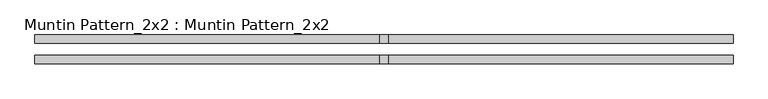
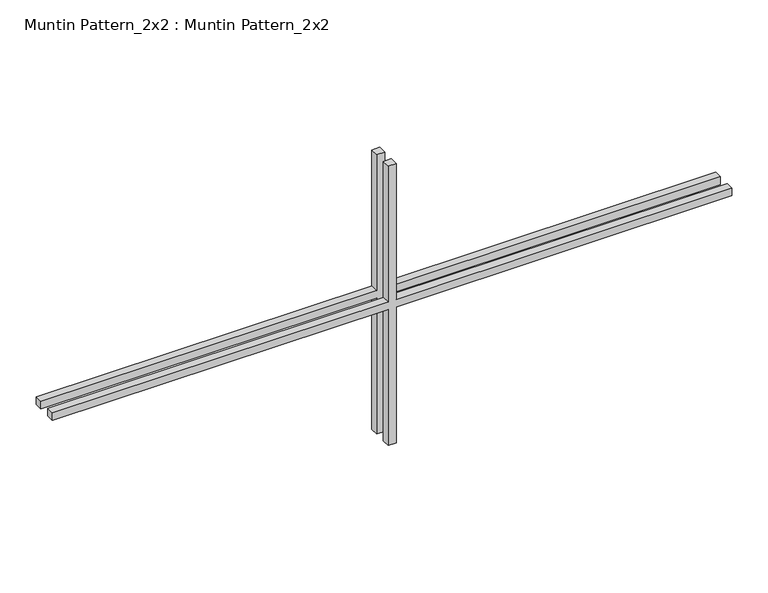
"""IFC4 building model written with IfcOpenShell, lengths in millimetres: proxy geometry, Muntin Pattern_2x2 : Muntin Pattern_2x2."""

from ifc_helpers import new_model, si_unit, frame, origin, place, context, project, spatial, polyline, outline, extrude, source, transform, mapped, element, save


def muntin_pattern_2x2_muntin_pattern_2x2_cf99dd86(model_context):
    return source(origin(), model_context, "Body", "SweptSolid", [
        extrude(outline(polyline([(241.2955927, -6.35), (241.2955927, -539.75), (228.5955927, -539.75), (228.5955927, -6.35), (0.0, -6.35), (0.0, 6.35), (228.5955927, 6.35), (228.5955927, 539.75), (241.2955927, 539.75), (241.2955927, 6.35), (469.8911855, 6.35), (469.8911855, -6.35), (241.2955927, -6.35)])), frame((0.0, -22.225, 0.0), z_axis=(0.0, 1.0, 0.0), x_axis=(0.0, 0.0, 1.0)), (0.0, 0.0, 1.0), 12.7),
        extrude(outline(polyline([(241.2955927, -6.35), (241.2955927, -539.75), (228.5955927, -539.75), (228.5955927, -6.35), (0.0, -6.35), (0.0, 6.35), (228.5955927, 6.35), (228.5955927, 539.75), (241.2955927, 539.75), (241.2955927, 6.35), (469.8911855, 6.35), (469.8911855, -6.35), (241.2955927, -6.35)])), frame((0.0, 9.525, 0.0), z_axis=(0.0, 1.0, 0.0), x_axis=(0.0, 0.0, 1.0)), (0.0, 0.0, 1.0), 12.7),
    ])


if __name__ == "__main__":
    model = new_model("IFC4")
    model_context = context("Model", 3, world=origin())
    ifc_project = project(units=[si_unit("LENGTHUNIT", "METRE", prefix="MILLI")], contexts=[model_context])
    site = spatial("IfcSite", under=ifc_project)
    building = spatial("IfcBuilding", under=site)
    placement = place(None, origin())
    muntin_pattern_2x2_muntin_pattern_2x2_shape = muntin_pattern_2x2_muntin_pattern_2x2_cf99dd86(model_context)
    element("IfcBuildingElementProxy", 1, Name="Muntin Pattern_2x2 : Muntin Pattern_2x2", ObjectType="Muntin Pattern_2x2 : Muntin Pattern_2x2", at=placement, inside=building, context=model_context, shape_type="MappedRepresentation", body=[
        mapped(muntin_pattern_2x2_muntin_pattern_2x2_shape, transform((0.0, 0.0, 0.0), x_axis=(1.0, 0.0, 0.0), y_axis=(0.0, 1.0, 0.0), z_axis=(0.0, 0.0, 1.0))),
    ])
    save(model, "model.ifc")
